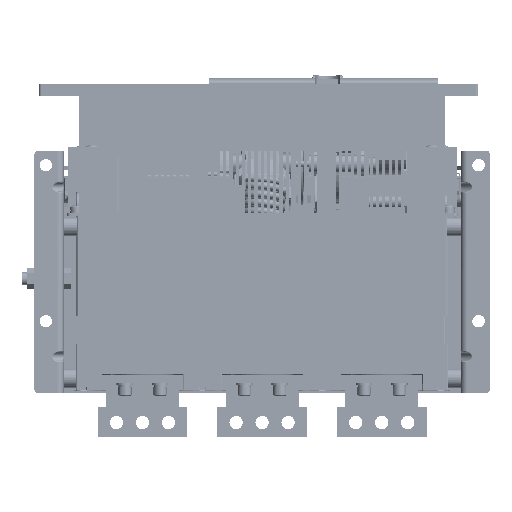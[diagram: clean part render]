
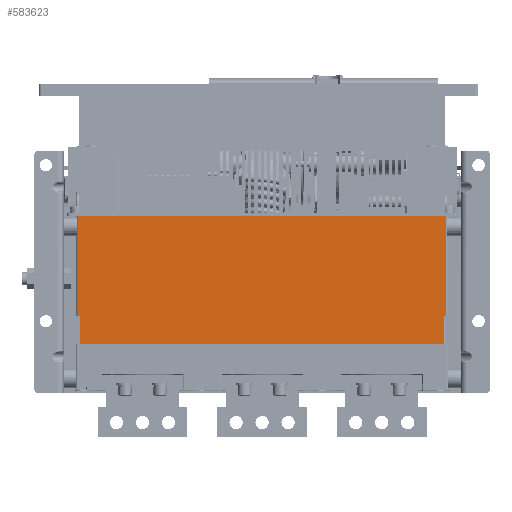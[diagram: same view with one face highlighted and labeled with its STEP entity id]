
A CAD part, front view. The second image highlights one B-rep face of the part: STEP entity #583623.
In plain terms, the highlighted planar face has unit normal (0, -1, 0) as drawn and (0, 1, 0) by its records, which use the part's own axes.
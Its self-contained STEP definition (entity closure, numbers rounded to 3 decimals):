
#18974 = VERTEX_POINT ( 'NONE', #580709 ) ;
#19897 = ORIENTED_EDGE ( 'NONE', *, *, #679106, .F. ) ;
#24354 = ORIENTED_EDGE ( 'NONE', *, *, #707101, .F. ) ;
#57788 = VECTOR ( 'NONE', #367704, 1000. ) ;
#72397 = CARTESIAN_POINT ( 'NONE',  ( 181.5, 150., -1000.5 ) ) ;
#73721 = FACE_OUTER_BOUND ( 'NONE', #587702, .T. ) ;
#80420 = DIRECTION ( 'NONE',  ( 0., 0., 1. ) ) ;
#84094 = CARTESIAN_POINT ( 'NONE',  ( 183.5, 150., -1123.5 ) ) ;
#90372 = VERTEX_POINT ( 'NONE', #361602 ) ;
#107970 = VERTEX_POINT ( 'NONE', #275883 ) ;
#110239 = LINE ( 'NONE', #347146, #272175 ) ;
#121719 = ORIENTED_EDGE ( 'NONE', *, *, #248126, .T. ) ;
#124352 = DIRECTION ( 'NONE',  ( -1., 0., 0. ) ) ;
#128407 = CARTESIAN_POINT ( 'NONE',  ( 183.5, 150., -1123.5 ) ) ;
#134017 = DIRECTION ( 'NONE',  ( 0., 0., 1. ) ) ;
#146774 = ORIENTED_EDGE ( 'NONE', *, *, #640587, .F. ) ;
#162197 = DIRECTION ( 'NONE',  ( 0., 0., -1. ) ) ;
#172015 = DIRECTION ( 'NONE',  ( 0., 0., 1. ) ) ;
#182263 = VERTEX_POINT ( 'NONE', #128407 ) ;
#182980 = CARTESIAN_POINT ( 'NONE',  ( 181.5, 150., -1027.5 ) ) ;
#193027 = VECTOR ( 'NONE', #172015, 1000. ) ;
#203310 = CARTESIAN_POINT ( 'NONE',  ( 181.5, 150., -1000.5 ) ) ;
#218576 = EDGE_CURVE ( 'NONE', #90372, #358135, #714933, .T. ) ;
#225427 = CARTESIAN_POINT ( 'NONE',  ( 183.5, 150., -1027.5 ) ) ;
#248126 = EDGE_CURVE ( 'NONE', #90372, #107970, #474792, .T. ) ;
#248605 = VERTEX_POINT ( 'NONE', #203310 ) ;
#262568 = EDGE_CURVE ( 'NONE', #18974, #248605, #631310, .T. ) ;
#269473 = EDGE_CURVE ( 'NONE', #18974, #543862, #674099, .T. ) ;
#272175 = VECTOR ( 'NONE', #162197, 1000. ) ;
#273913 = CARTESIAN_POINT ( 'NONE',  ( 181.5, 150., -1027.5 ) ) ;
#275883 = CARTESIAN_POINT ( 'NONE',  ( -168.5, 150., -1000.5 ) ) ;
#304765 = CARTESIAN_POINT ( 'NONE',  ( 183.5, 150., -1123.5 ) ) ;
#322095 = CARTESIAN_POINT ( 'NONE',  ( -168.5, 150., -1027.5 ) ) ;
#340757 = VECTOR ( 'NONE', #607385, 1000. ) ;
#347146 = CARTESIAN_POINT ( 'NONE',  ( -170.5, 150., -1027.5 ) ) ;
#358135 = VERTEX_POINT ( 'NONE', #411240 ) ;
#360305 = VECTOR ( 'NONE', #80420, 1000. ) ;
#361602 = CARTESIAN_POINT ( 'NONE',  ( -168.5, 150., -1027.5 ) ) ;
#362520 = PLANE ( 'NONE',  #721236 ) ;
#367704 = DIRECTION ( 'NONE',  ( -1., 0., 0. ) ) ;
#398689 = ORIENTED_EDGE ( 'NONE', *, *, #515904, .T. ) ;
#411240 = CARTESIAN_POINT ( 'NONE',  ( -170.5, 150., -1027.5 ) ) ;
#421218 = VECTOR ( 'NONE', #124352, 1000. ) ;
#421947 = VECTOR ( 'NONE', #499954, 1000. ) ;
#474792 = LINE ( 'NONE', #645176, #715749 ) ;
#478979 = ORIENTED_EDGE ( 'NONE', *, *, #262568, .F. ) ;
#486188 = LINE ( 'NONE', #304765, #57788 ) ;
#499954 = DIRECTION ( 'NONE',  ( 1., 0., 0. ) ) ;
#515904 = EDGE_CURVE ( 'NONE', #182263, #577346, #486188, .T. ) ;
#536086 = LINE ( 'NONE', #84094, #360305 ) ;
#539984 = ORIENTED_EDGE ( 'NONE', *, *, #269473, .T. ) ;
#543862 = VERTEX_POINT ( 'NONE', #225427 ) ;
#573929 = DIRECTION ( 'NONE',  ( 1., 0., 0. ) ) ;
#577346 = VERTEX_POINT ( 'NONE', #686626 ) ;
#580709 = CARTESIAN_POINT ( 'NONE',  ( 181.5, 150., -1027.5 ) ) ;
#583623 = ADVANCED_FACE ( 'NONE', ( #73721 ), #362520, .T. ) ;
#587702 = EDGE_LOOP ( 'NONE', ( #653542, #121719, #24354, #478979, #539984, #19897, #398689, #146774 ) ) ;
#588561 = CARTESIAN_POINT ( 'NONE',  ( -251., 150., -1000. ) ) ;
#607385 = DIRECTION ( 'NONE',  ( -1., 0., 0. ) ) ;
#631310 = LINE ( 'NONE', #182980, #193027 ) ;
#631889 = LINE ( 'NONE', #72397, #421218 ) ;
#640587 = EDGE_CURVE ( 'NONE', #358135, #577346, #110239, .T. ) ;
#645176 = CARTESIAN_POINT ( 'NONE',  ( -168.5, 150., -1027.5 ) ) ;
#647824 = DIRECTION ( 'NONE',  ( 0., 1., 0. ) ) ;
#653542 = ORIENTED_EDGE ( 'NONE', *, *, #218576, .F. ) ;
#674099 = LINE ( 'NONE', #273913, #421947 ) ;
#679106 = EDGE_CURVE ( 'NONE', #182263, #543862, #536086, .T. ) ;
#686626 = CARTESIAN_POINT ( 'NONE',  ( -170.5, 150., -1123.5 ) ) ;
#707101 = EDGE_CURVE ( 'NONE', #248605, #107970, #631889, .T. ) ;
#714933 = LINE ( 'NONE', #322095, #340757 ) ;
#715749 = VECTOR ( 'NONE', #134017, 1000. ) ;
#721236 = AXIS2_PLACEMENT_3D ( 'NONE', #588561, #647824, #573929 ) ;
